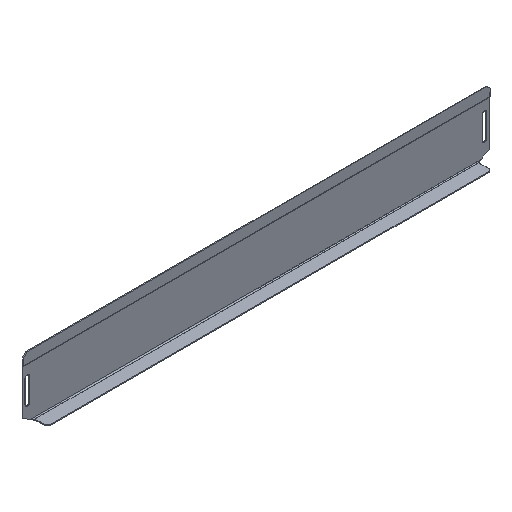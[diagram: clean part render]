
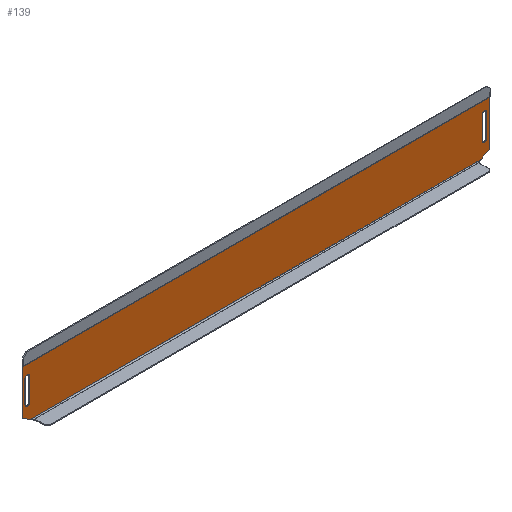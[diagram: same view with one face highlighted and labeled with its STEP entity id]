
A CAD part, isometric view. The second image highlights one B-rep face of the part: STEP entity #139.
In plain terms, the highlighted planar face has unit normal (0, -1, 0).
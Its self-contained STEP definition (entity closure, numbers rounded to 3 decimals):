
#11 = ORIENTED_EDGE ( 'NONE', *, *, #146, .F. ) ;
#14 = VERTEX_POINT ( 'NONE', #259 ) ;
#24 = EDGE_CURVE ( 'NONE', #822, #215, #1229, .T. ) ;
#26 = VERTEX_POINT ( 'NONE', #982 ) ;
#29 = CARTESIAN_POINT ( 'NONE',  ( -304.25, 0., 53.6 ) ) ;
#37 = EDGE_CURVE ( 'NONE', #334, #962, #197, .T. ) ;
#46 = EDGE_CURVE ( 'NONE', #172, #1150, #214, .T. ) ;
#70 = VECTOR ( 'NONE', #563, 1000. ) ;
#79 = DIRECTION ( 'NONE',  ( 0., 0., 1. ) ) ;
#121 = CIRCLE ( 'NONE', #529, 3. ) ;
#126 = EDGE_CURVE ( 'NONE', #597, #822, #598, .T. ) ;
#139 = ADVANCED_FACE ( 'NONE', ( #806, #258, #685 ), #886, .T. ) ;
#146 = EDGE_CURVE ( 'NONE', #232, #1081, #496, .T. ) ;
#158 = VERTEX_POINT ( 'NONE', #1105 ) ;
#160 = CARTESIAN_POINT ( 'NONE',  ( 310.25, 0., 6.155 ) ) ;
#167 = ORIENTED_EDGE ( 'NONE', *, *, #241, .F. ) ;
#172 = VERTEX_POINT ( 'NONE', #802 ) ;
#176 = CARTESIAN_POINT ( 'NONE',  ( 307.25, 0., 50.6 ) ) ;
#180 = CARTESIAN_POINT ( 'NONE',  ( 307.25, 0., 20.6 ) ) ;
#183 = CIRCLE ( 'NONE', #616, 3. ) ;
#197 = LINE ( 'NONE', #870, #943 ) ;
#214 = CIRCLE ( 'NONE', #919, 3. ) ;
#215 = VERTEX_POINT ( 'NONE', #1201 ) ;
#221 = CARTESIAN_POINT ( 'NONE',  ( 301.25, 0., 20.6 ) ) ;
#223 = DIRECTION ( 'NONE',  ( 0.862, 0., 0.507 ) ) ;
#230 = VECTOR ( 'NONE', #1169, 1000. ) ;
#232 = VERTEX_POINT ( 'NONE', #291 ) ;
#241 = EDGE_CURVE ( 'NONE', #14, #158, #1050, .T. ) ;
#252 = CARTESIAN_POINT ( 'NONE',  ( -304.25, 0., 50.6 ) ) ;
#258 = FACE_BOUND ( 'NONE', #854, .T. ) ;
#259 = CARTESIAN_POINT ( 'NONE',  ( -301.25, 0., 20.6 ) ) ;
#269 = VECTOR ( 'NONE', #788, 1000. ) ;
#278 = CARTESIAN_POINT ( 'NONE',  ( 310.25, 0., 0. ) ) ;
#288 = ORIENTED_EDGE ( 'NONE', *, *, #517, .T. ) ;
#291 = CARTESIAN_POINT ( 'NONE',  ( 310.25, 0., 66.168 ) ) ;
#296 = VECTOR ( 'NONE', #536, 1000. ) ;
#297 = LINE ( 'NONE', #988, #269 ) ;
#309 = CARTESIAN_POINT ( 'NONE',  ( 299.781, 0., 0. ) ) ;
#334 = VERTEX_POINT ( 'NONE', #1236 ) ;
#342 = LINE ( 'NONE', #443, #296 ) ;
#343 = VECTOR ( 'NONE', #429, 1000. ) ;
#361 = CARTESIAN_POINT ( 'NONE',  ( 304.25, 0., 20.6 ) ) ;
#367 = DIRECTION ( 'NONE',  ( 0., -1., 0. ) ) ;
#376 = CARTESIAN_POINT ( 'NONE',  ( 304.25, 0., 50.6 ) ) ;
#391 = CARTESIAN_POINT ( 'NONE',  ( 307.25, 0., 50.6 ) ) ;
#401 = VERTEX_POINT ( 'NONE', #1115 ) ;
#408 = EDGE_CURVE ( 'NONE', #158, #1297, #121, .T. ) ;
#429 = DIRECTION ( 'NONE',  ( -1., 0., 0. ) ) ;
#432 = VECTOR ( 'NONE', #986, 1000. ) ;
#443 = CARTESIAN_POINT ( 'NONE',  ( -307.25, 0., 50.6 ) ) ;
#486 = ORIENTED_EDGE ( 'NONE', *, *, #827, .T. ) ;
#494 = CIRCLE ( 'NONE', #1172, 3. ) ;
#496 = LINE ( 'NONE', #691, #230 ) ;
#517 = EDGE_CURVE ( 'NONE', #334, #401, #1192, .T. ) ;
#520 = AXIS2_PLACEMENT_3D ( 'NONE', #651, #954, #1044 ) ;
#529 = AXIS2_PLACEMENT_3D ( 'NONE', #252, #756, #654 ) ;
#536 = DIRECTION ( 'NONE',  ( 0., 0., -1. ) ) ;
#542 = CARTESIAN_POINT ( 'NONE',  ( -310.25, 0., 66.168 ) ) ;
#543 = EDGE_CURVE ( 'NONE', #668, #14, #494, .T. ) ;
#563 = DIRECTION ( 'NONE',  ( 0.862, 0., -0.507 ) ) ;
#568 = DIRECTION ( 'NONE',  ( 0., 0., 1. ) ) ;
#578 = ORIENTED_EDGE ( 'NONE', *, *, #46, .T. ) ;
#597 = VERTEX_POINT ( 'NONE', #180 ) ;
#598 = CIRCLE ( 'NONE', #1185, 3. ) ;
#616 = AXIS2_PLACEMENT_3D ( 'NONE', #845, #1241, #945 ) ;
#620 = EDGE_CURVE ( 'NONE', #232, #962, #297, .T. ) ;
#651 = CARTESIAN_POINT ( 'NONE',  ( 304.25, 0., 50.6 ) ) ;
#654 = DIRECTION ( 'NONE',  ( 0., 0., 1. ) ) ;
#667 = EDGE_CURVE ( 'NONE', #1150, #597, #740, .T. ) ;
#668 = VERTEX_POINT ( 'NONE', #807 ) ;
#685 = FACE_OUTER_BOUND ( 'NONE', #996, .T. ) ;
#691 = CARTESIAN_POINT ( 'NONE',  ( 310.25, 0., 81.2 ) ) ;
#694 = CARTESIAN_POINT ( 'NONE',  ( 301.25, 0., 50.6 ) ) ;
#696 = CARTESIAN_POINT ( 'NONE',  ( -304.25, 0., 20.6 ) ) ;
#699 = LINE ( 'NONE', #1131, #343 ) ;
#702 = ORIENTED_EDGE ( 'NONE', *, *, #667, .T. ) ;
#706 = ORIENTED_EDGE ( 'NONE', *, *, #935, .F. ) ;
#740 = LINE ( 'NONE', #391, #862 ) ;
#743 = VERTEX_POINT ( 'NONE', #1114 ) ;
#756 = DIRECTION ( 'NONE',  ( 0., -1., 0. ) ) ;
#762 = ORIENTED_EDGE ( 'NONE', *, *, #1282, .F. ) ;
#770 = DIRECTION ( 'NONE',  ( 0., 0., 1. ) ) ;
#785 = DIRECTION ( 'NONE',  ( 0., 1., 0. ) ) ;
#787 = LINE ( 'NONE', #309, #1243 ) ;
#788 = DIRECTION ( 'NONE',  ( -1., 0., 0. ) ) ;
#799 = DIRECTION ( 'NONE',  ( 0., 0., 1. ) ) ;
#802 = CARTESIAN_POINT ( 'NONE',  ( 304.25, 0., 53.6 ) ) ;
#804 = ORIENTED_EDGE ( 'NONE', *, *, #543, .F. ) ;
#806 = FACE_BOUND ( 'NONE', #1116, .T. ) ;
#807 = CARTESIAN_POINT ( 'NONE',  ( -307.25, 0., 20.6 ) ) ;
#814 = DIRECTION ( 'NONE',  ( 0., 0., -1. ) ) ;
#822 = VERTEX_POINT ( 'NONE', #221 ) ;
#827 = EDGE_CURVE ( 'NONE', #26, #1081, #787, .T. ) ;
#845 = CARTESIAN_POINT ( 'NONE',  ( -304.25, 0., 50.6 ) ) ;
#854 = EDGE_LOOP ( 'NONE', ( #762, #1006, #864, #167, #804 ) ) ;
#862 = VECTOR ( 'NONE', #1200, 1000. ) ;
#864 = ORIENTED_EDGE ( 'NONE', *, *, #408, .F. ) ;
#870 = CARTESIAN_POINT ( 'NONE',  ( -310.25, 0., 81.2 ) ) ;
#886 = PLANE ( 'NONE',  #1096 ) ;
#891 = EDGE_CURVE ( 'NONE', #1297, #743, #183, .T. ) ;
#919 = AXIS2_PLACEMENT_3D ( 'NONE', #376, #969, #770 ) ;
#924 = EDGE_CURVE ( 'NONE', #215, #172, #991, .T. ) ;
#935 = EDGE_CURVE ( 'NONE', #26, #401, #699, .T. ) ;
#943 = VECTOR ( 'NONE', #568, 1000. ) ;
#945 = DIRECTION ( 'NONE',  ( 0., 0., 1. ) ) ;
#954 = DIRECTION ( 'NONE',  ( 0., 1., 0. ) ) ;
#962 = VERTEX_POINT ( 'NONE', #542 ) ;
#969 = DIRECTION ( 'NONE',  ( 0., 1., 0. ) ) ;
#976 = DIRECTION ( 'NONE',  ( 0., -1., 0. ) ) ;
#982 = CARTESIAN_POINT ( 'NONE',  ( 299.781, 0., 0. ) ) ;
#985 = DIRECTION ( 'NONE',  ( 0., 0., 1. ) ) ;
#986 = DIRECTION ( 'NONE',  ( 0., 0., 1. ) ) ;
#988 = CARTESIAN_POINT ( 'NONE',  ( 310.25, 0., 66.168 ) ) ;
#991 = CIRCLE ( 'NONE', #520, 3. ) ;
#996 = EDGE_LOOP ( 'NONE', ( #706, #486, #11, #1292, #1209, #288 ) ) ;
#1005 = CARTESIAN_POINT ( 'NONE',  ( -301.25, 0., 50.6 ) ) ;
#1006 = ORIENTED_EDGE ( 'NONE', *, *, #891, .F. ) ;
#1042 = ORIENTED_EDGE ( 'NONE', *, *, #24, .T. ) ;
#1044 = DIRECTION ( 'NONE',  ( 0., 0., 1. ) ) ;
#1050 = LINE ( 'NONE', #1005, #1127 ) ;
#1081 = VERTEX_POINT ( 'NONE', #160 ) ;
#1096 = AXIS2_PLACEMENT_3D ( 'NONE', #278, #976, #814 ) ;
#1105 = CARTESIAN_POINT ( 'NONE',  ( -301.25, 0., 50.6 ) ) ;
#1114 = CARTESIAN_POINT ( 'NONE',  ( -307.25, 0., 50.6 ) ) ;
#1115 = CARTESIAN_POINT ( 'NONE',  ( -299.781, 0., 0. ) ) ;
#1116 = EDGE_LOOP ( 'NONE', ( #1132, #578, #702, #1149, #1042 ) ) ;
#1127 = VECTOR ( 'NONE', #799, 1000. ) ;
#1131 = CARTESIAN_POINT ( 'NONE',  ( 299.781, 0., 0. ) ) ;
#1132 = ORIENTED_EDGE ( 'NONE', *, *, #924, .T. ) ;
#1149 = ORIENTED_EDGE ( 'NONE', *, *, #126, .T. ) ;
#1150 = VERTEX_POINT ( 'NONE', #176 ) ;
#1169 = DIRECTION ( 'NONE',  ( 0., 0., -1. ) ) ;
#1172 = AXIS2_PLACEMENT_3D ( 'NONE', #696, #367, #985 ) ;
#1173 = CARTESIAN_POINT ( 'NONE',  ( -299.781, 0., 0. ) ) ;
#1185 = AXIS2_PLACEMENT_3D ( 'NONE', #361, #785, #79 ) ;
#1192 = LINE ( 'NONE', #1173, #70 ) ;
#1200 = DIRECTION ( 'NONE',  ( 0., 0., -1. ) ) ;
#1201 = CARTESIAN_POINT ( 'NONE',  ( 301.25, 0., 50.6 ) ) ;
#1209 = ORIENTED_EDGE ( 'NONE', *, *, #37, .F. ) ;
#1229 = LINE ( 'NONE', #694, #432 ) ;
#1236 = CARTESIAN_POINT ( 'NONE',  ( -310.25, 0., 6.155 ) ) ;
#1241 = DIRECTION ( 'NONE',  ( 0., -1., 0. ) ) ;
#1243 = VECTOR ( 'NONE', #223, 1000. ) ;
#1282 = EDGE_CURVE ( 'NONE', #743, #668, #342, .T. ) ;
#1292 = ORIENTED_EDGE ( 'NONE', *, *, #620, .T. ) ;
#1297 = VERTEX_POINT ( 'NONE', #29 ) ;
